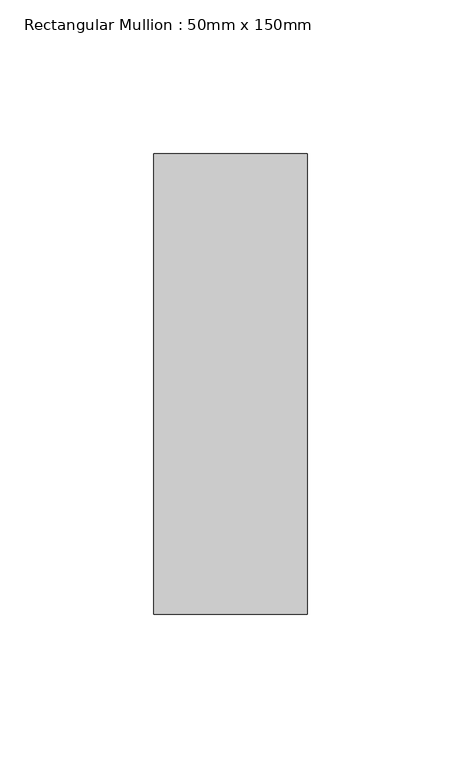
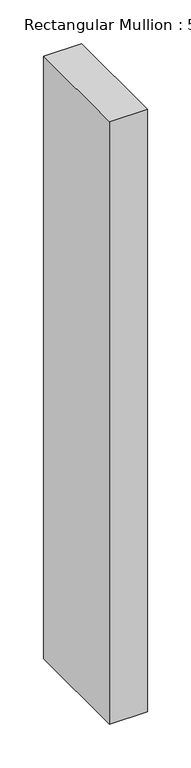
"""IFC4 building model written with IfcOpenShell, lengths in millimetres: member geometry, Rectangular Mullion : 50mm x 150mm."""

from ifc_helpers import new_model, si_unit, frame, origin, place, context, project, spatial, polyline, outline, extrude, source, transform, mapped, element, save


def rectangular_mullion_50mm_x_150mm_0e57614d(model_context):
    return source(origin(), model_context, "Body", "SweptSolid", [
        extrude(outline(polyline([(0.0, 75.0), (0.0, -75.0), (-50.0, -75.0), (-50.0, 75.0), (0.0, 75.0)])), frame((0.0, 0.0, -838.7581578), z_axis=(0.0, 0.0, 1.0), x_axis=(1.0, 0.0, 0.0)), (0.0, 0.0, 1.0), 838.7581578),
    ])


if __name__ == "__main__":
    model = new_model("IFC4")
    model_context = context("Model", 3, world=origin())
    ifc_project = project(units=[si_unit("LENGTHUNIT", "METRE", prefix="MILLI")], contexts=[model_context])
    site = spatial("IfcSite", under=ifc_project)
    building = spatial("IfcBuilding", under=site)
    placement = place(None, origin())
    rectangular_mullion_50mm_x_150mm_shape = rectangular_mullion_50mm_x_150mm_0e57614d(model_context)
    element("IfcMember", 1, ObjectType="Rectangular Mullion : 50mm x 150mm", at=placement, inside=building, context=model_context, shape_type="MappedRepresentation", body=[
        mapped(rectangular_mullion_50mm_x_150mm_shape, transform((0.0, 0.0, 0.0), x_axis=(1.0, 0.0, 0.0), y_axis=(0.0, 1.0, 0.0), z_axis=(0.0, 0.0, 1.0))),
    ])
    save(model, "model.ifc")
